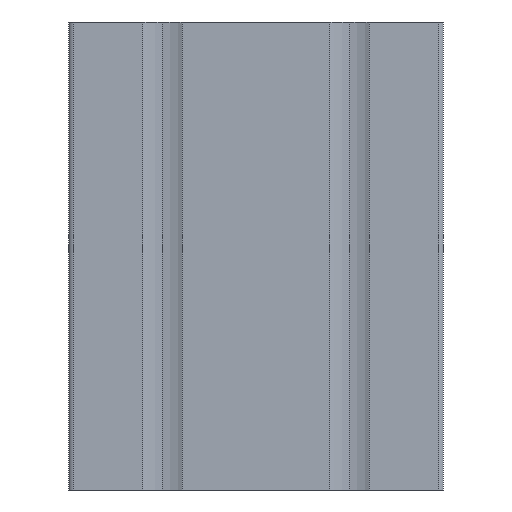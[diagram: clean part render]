
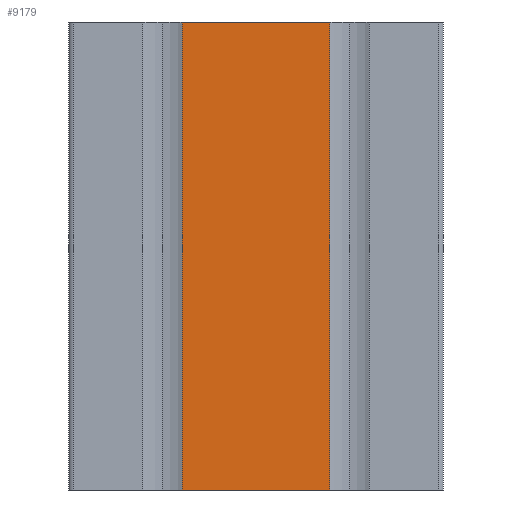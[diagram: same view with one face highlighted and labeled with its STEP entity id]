
A CAD part, left-side view. The second image highlights one B-rep face of the part: STEP entity #9179.
In plain terms, the highlighted planar face has unit normal (-1, 0, 0).
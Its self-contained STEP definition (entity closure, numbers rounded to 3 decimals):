
#433 = PLANE ( 'NONE',  #9476 ) ;
#802 = VECTOR ( 'NONE', #5051, 1000. ) ;
#1493 = CARTESIAN_POINT ( 'NONE',  ( -80., 15.8, -100. ) ) ;
#1545 = CARTESIAN_POINT ( 'NONE',  ( -80., 15.8, 0. ) ) ;
#2010 = VERTEX_POINT ( 'NONE', #6466 ) ;
#2213 = DIRECTION ( 'NONE',  ( 0., 0., 1. ) ) ;
#2424 = CARTESIAN_POINT ( 'NONE',  ( -80., -15.8, -100. ) ) ;
#2693 = LINE ( 'NONE', #5985, #6865 ) ;
#3106 = EDGE_CURVE ( 'NONE', #9518, #8983, #8717, .T. ) ;
#3186 = DIRECTION ( 'NONE',  ( 0., 0., 1. ) ) ;
#3333 = FACE_OUTER_BOUND ( 'NONE', #8324, .T. ) ;
#3402 = CARTESIAN_POINT ( 'NONE',  ( -80., 15.8, 0. ) ) ;
#3542 = DIRECTION ( 'NONE',  ( -1., 0., 0. ) ) ;
#3960 = CARTESIAN_POINT ( 'NONE',  ( -80., -15.8, -100. ) ) ;
#4332 = DIRECTION ( 'NONE',  ( 0., 0., 1. ) ) ;
#4942 = CARTESIAN_POINT ( 'NONE',  ( -80., 15.8, -100. ) ) ;
#5051 = DIRECTION ( 'NONE',  ( 0., -1., 0. ) ) ;
#5275 = ORIENTED_EDGE ( 'NONE', *, *, #10065, .F. ) ;
#5438 = LINE ( 'NONE', #1493, #9374 ) ;
#5486 = ORIENTED_EDGE ( 'NONE', *, *, #6835, .F. ) ;
#5824 = LINE ( 'NONE', #3402, #802 ) ;
#5985 = CARTESIAN_POINT ( 'NONE',  ( -80., 15.8, -100. ) ) ;
#6114 = VECTOR ( 'NONE', #3186, 1000. ) ;
#6413 = ORIENTED_EDGE ( 'NONE', *, *, #10008, .T. ) ;
#6466 = CARTESIAN_POINT ( 'NONE',  ( -80., 15.8, -100. ) ) ;
#6835 = EDGE_CURVE ( 'NONE', #2010, #8066, #5438, .T. ) ;
#6865 = VECTOR ( 'NONE', #9094, 1000. ) ;
#7774 = CARTESIAN_POINT ( 'NONE',  ( -80., -15.8, 0. ) ) ;
#8066 = VERTEX_POINT ( 'NONE', #1545 ) ;
#8324 = EDGE_LOOP ( 'NONE', ( #5275, #5486, #6413, #9368 ) ) ;
#8717 = LINE ( 'NONE', #2424, #6114 ) ;
#8983 = VERTEX_POINT ( 'NONE', #7774 ) ;
#9094 = DIRECTION ( 'NONE',  ( 0., -1., 0. ) ) ;
#9179 = ADVANCED_FACE ( 'NONE', ( #3333 ), #433, .T. ) ;
#9368 = ORIENTED_EDGE ( 'NONE', *, *, #3106, .T. ) ;
#9374 = VECTOR ( 'NONE', #2213, 1000. ) ;
#9476 = AXIS2_PLACEMENT_3D ( 'NONE', #4942, #3542, #4332 ) ;
#9518 = VERTEX_POINT ( 'NONE', #3960 ) ;
#10008 = EDGE_CURVE ( 'NONE', #2010, #9518, #2693, .T. ) ;
#10065 = EDGE_CURVE ( 'NONE', #8066, #8983, #5824, .T. ) ;
